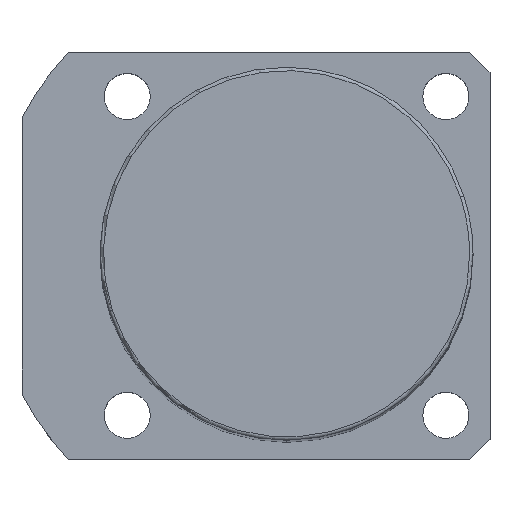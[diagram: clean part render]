
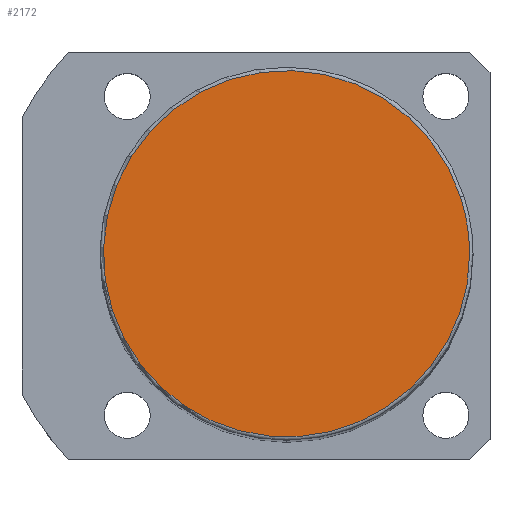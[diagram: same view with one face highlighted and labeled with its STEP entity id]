
A CAD part, top view. The second image highlights one B-rep face of the part: STEP entity #2172.
In plain terms, the highlighted planar face has unit normal (0, 0, 1).
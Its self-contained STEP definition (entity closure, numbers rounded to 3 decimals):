
#2138=CARTESIAN_POINT('',(27.0,0.0,191.0));
#2139=VERTEX_POINT('',#2138);
#2140=CARTESIAN_POINT('',(25.679,8.343,191.0));
#2141=VERTEX_POINT('',#2140);
#2142=CARTESIAN_POINT('',(0.0,0.0,191.0));
#2143=DIRECTION('',(0.0,0.0,1.0));
#2144=DIRECTION('',(1.0,0.0,0.0));
#2145=AXIS2_PLACEMENT_3D('',#2142,#2143,#2144);
#2146=CIRCLE('',#2145,27.0);
#2147=EDGE_CURVE('no 2181',#2139,#2141,#2146,.T.);
#2148=ORIENTED_EDGE('',*,*,#2147,.T.);
#2149=CARTESIAN_POINT('',(-25.679,-8.343,191.0));
#2150=VERTEX_POINT('',#2149);
#2151=CARTESIAN_POINT('',(0.0,0.0,191.0));
#2152=DIRECTION('',(0.0,0.0,1.0));
#2153=DIRECTION('',(1.0,0.0,0.0));
#2154=AXIS2_PLACEMENT_3D('',#2151,#2152,#2153);
#2155=CIRCLE('',#2154,27.0);
#2156=EDGE_CURVE('no 2187',#2141,#2150,#2155,.T.);
#2157=ORIENTED_EDGE('',*,*,#2156,.T.);
#2158=CARTESIAN_POINT('',(0.0,0.0,191.0));
#2159=DIRECTION('',(0.0,0.0,1.0));
#2160=DIRECTION('',(1.0,0.0,0.0));
#2161=AXIS2_PLACEMENT_3D('',#2158,#2159,#2160);
#2162=CIRCLE('',#2161,27.0);
#2163=EDGE_CURVE('no 2191',#2150,#2139,#2162,.T.);
#2164=ORIENTED_EDGE('',*,*,#2163,.T.);
#2165=EDGE_LOOP('',(#2148,#2157,#2164));
#2166=FACE_OUTER_BOUND('',#2165,.T.);
#2167=CARTESIAN_POINT('',(0.0,0.0,191.0));
#2168=DIRECTION('',(0.0,0.0,1.0));
#2169=DIRECTION('',(1.0,0.0,0.0));
#2170=AXIS2_PLACEMENT_3D('',#2167,#2168,#2169);
#2171=PLANE('',#2170);
#2172=ADVANCED_FACE('no 2172',(#2166),#2171,.T.);
